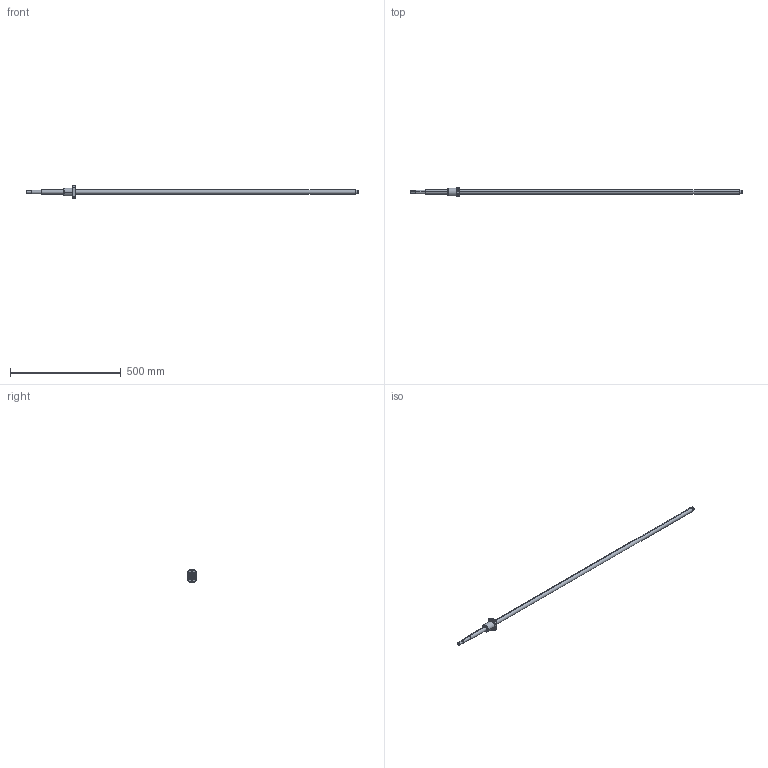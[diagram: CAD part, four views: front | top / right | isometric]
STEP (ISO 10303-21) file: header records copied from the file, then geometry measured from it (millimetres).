
FILE_DESCRIPTION (( 'STEP AP214' ), '1' );
FILE_NAME ('2.2125 SFU2005-1500mm.STEP', '2025-09-19T08:05:15', ( '' ), ( '' ), 'SwSTEP 2.0', 'SolidWorks 2025', '' );
FILE_SCHEMA (( 'AUTOMOTIVE_DESIGN' ));
Length unit declared in the file: millimetre
Products named in the file (3): 2.2125 SFU2005-1500mm; 2.3014 Kuularuuvimutteri SFU2005-4
Assembly tree (2 placements, depth 2):
  2.2125 SFU2005-1500mm
    2.2125 SFU2005-1500mm
    2.3014 Kuularuuvimutteri SFU2005-4
Bounding box: 1500 x 44 x 58 mm (x, y, z)
Volume: 493806.8 mm3; surface area: 107943.1 mm2
Topology: 3 solids, 3 shells, 72 faces, 165 edges, 106 vertices
Faces by surface type: cylinder 37, plane 18, cone 11, bspline 6
Entity records: 2808 total; most frequent: CARTESIAN_POINT 941, DIRECTION 377, ORIENTED_EDGE 330, EDGE_CURVE 165, AXIS2_PLACEMENT_3D 158, VERTEX_POINT 106, EDGE_LOOP 95, CIRCLE 87
